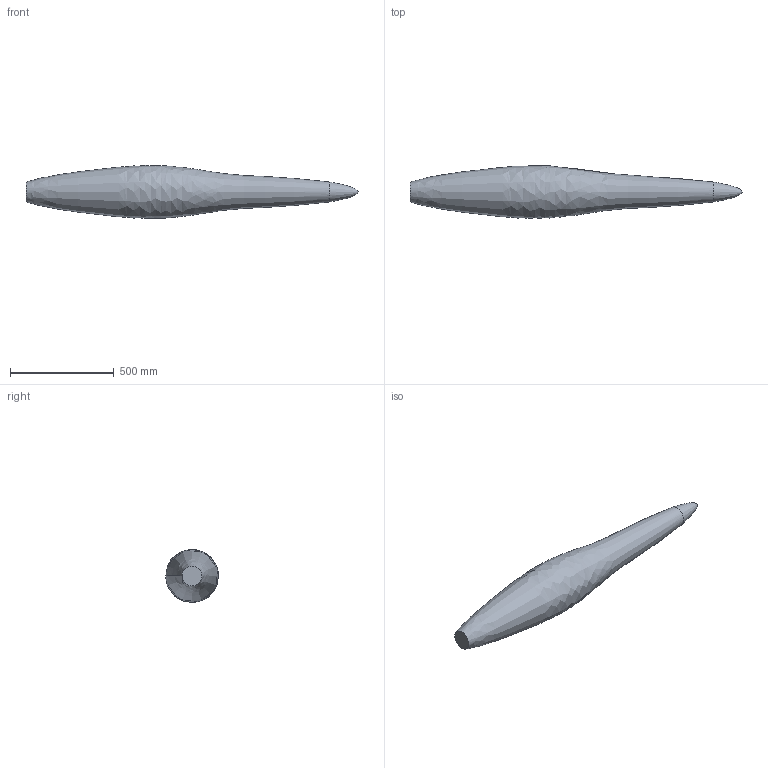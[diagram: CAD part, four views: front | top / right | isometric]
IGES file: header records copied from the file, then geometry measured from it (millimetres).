
Global section: file name: No Iges File Name specified; native system: AutoDesk Inventor R6.1; preprocessor: AutoDesk Inventor Iges Exporter R6.1; author: No Author specified; organization: No Organization specified; date: 20050811.082227; units: millimetre
Bounding box: 1600 x 255.57 x 255.71 mm (x, y, z)
Surface area: 890321.7 mm2 (no closed solid volume)
Topology: 0 solids, 0 shells, 3 faces, 9 edges, 5 vertices
Faces by surface type: bspline 2, plane 1
